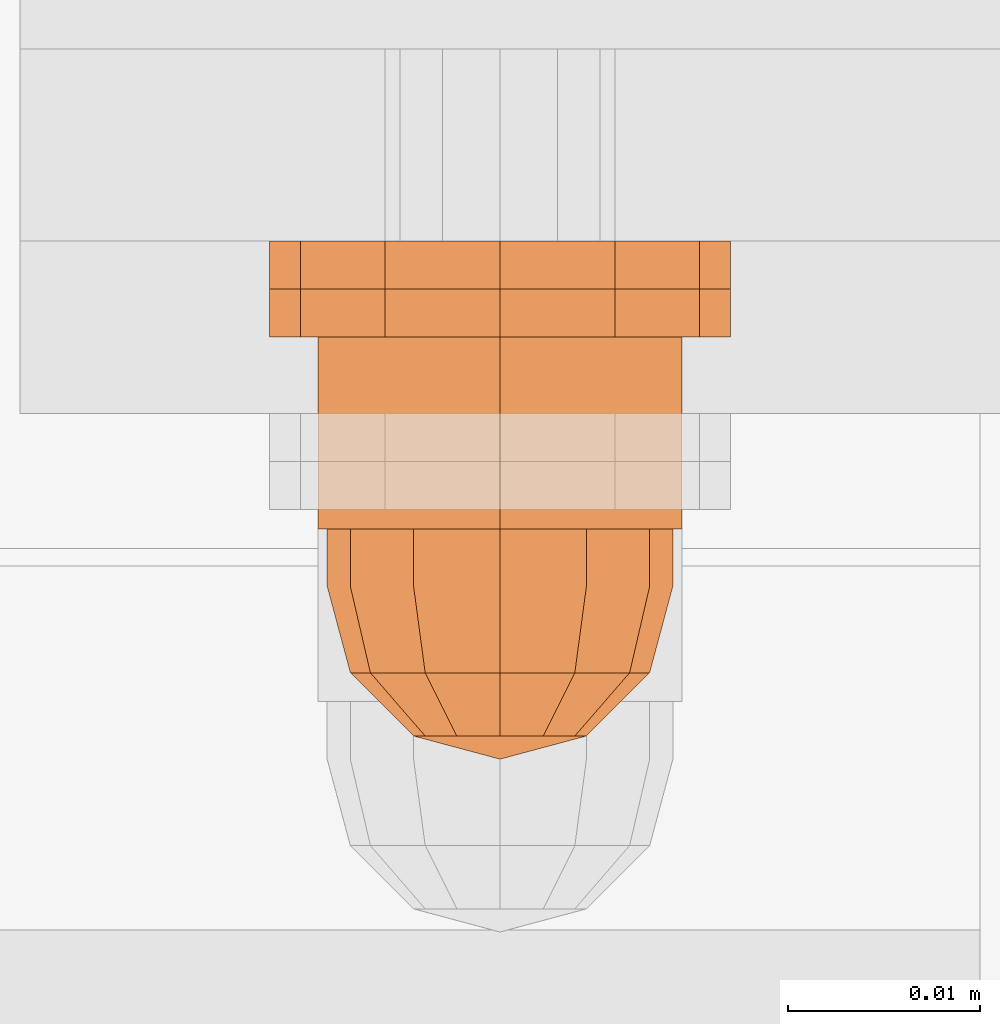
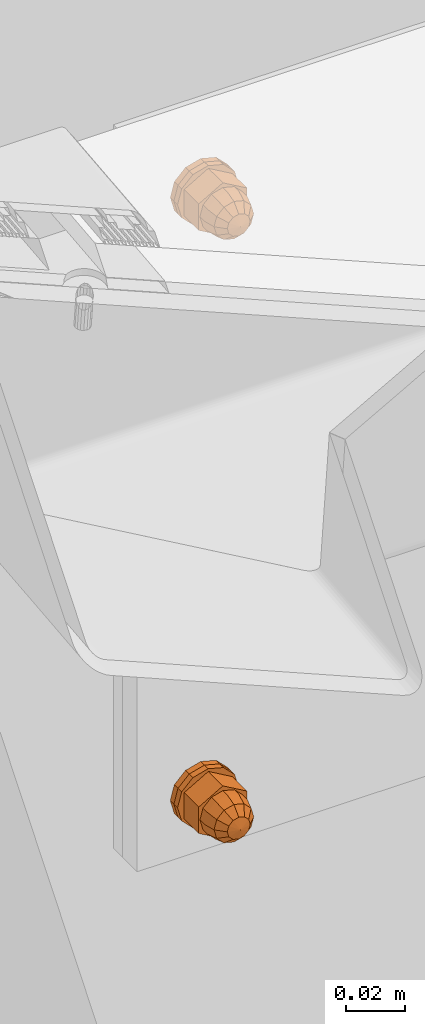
# One storey, part 133 of 162: 6 proxies.
"""IFC2X3 building model written with IfcOpenShell, lengths in millimetres."""

from ifc_helpers import new_model, entity, si_unit, converted_unit, origin_with_axes, place, context, project, spatial, faceted_brep, material, element, save


model = new_model("IFC2X3")

# Units and contexts
model_context = context("Model", 3, precision=1e-09, world=origin_with_axes())
ifc_project = project(units=[si_unit("LENGTHUNIT", "METRE", prefix="MILLI"), si_unit("AREAUNIT", "SQUARE_METRE"), si_unit("VOLUMEUNIT", "CUBIC_METRE"), converted_unit("PLANEANGLEUNIT", "DEGREE", entity("IfcPlaneAngleMeasure", 0.01745329), si_unit("PLANEANGLEUNIT", "RADIAN"), dimensions=[0, 0, 0, 0, 0, 0, 0])], contexts=[model_context])

# Site, building, storey
site_placement = place(None, origin_with_axes())
site = spatial("IfcSite", under=ifc_project, at=site_placement, Name="Hermannstra?e 1a, 60318 Frankfurt", CompositionType="ELEMENT")
building_placement = place(site_placement, origin_with_axes())
building = spatial("IfcBuilding", under=site, at=building_placement, Name="Struktur 1", CompositionType="ELEMENT")
storey_placement = place(building_placement, origin_with_axes())
storey = spatial("IfcBuildingStorey", under=building, at=storey_placement, Name="Default Storey", CompositionType="ELEMENT", Elevation=0.0)

# Proxies
ifc_material_1 = material(Name="Kunststoff")
proxy_1_placement = place(None, origin_with_axes())
element("IfcBuildingElementProxy", 1, at=proxy_1_placement, inside=storey, material=ifc_material_1, ObjectType="-", context=model_context, shape_type="Brep", body=[
    faceted_brep([(2688.701669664, 2717.109373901, 17460.999), (2688.701669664, 2719.609373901, 17460.999), (2690.309364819, 2719.609373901, 17466.999), (2690.309364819, 2717.109373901, 17466.999), (2684.309364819, 2719.609373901, 17456.606695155), (2678.309364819, 2719.609373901, 17454.999), (2672.309364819, 2719.609373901, 17456.606695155), (2667.917059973, 2719.609373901, 17460.999), (2666.309364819, 2719.609373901, 17466.999), (2667.917059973, 2719.609373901, 17472.999), (2672.309364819, 2719.609373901, 17477.391304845), (2678.309364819, 2719.609373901, 17478.999), (2684.309364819, 2719.609373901, 17477.391304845), (2688.701669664, 2719.609373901, 17472.999), (2681.559364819, 2719.609373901, 17461.369834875), (2683.938529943, 2719.609373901, 17463.749), (2684.809364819, 2719.609373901, 17466.999), (2683.938529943, 2719.609373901, 17470.249), (2681.559364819, 2719.609373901, 17472.628165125), (2678.309364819, 2719.609373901, 17473.499), (2675.059364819, 2719.609373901, 17472.628165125), (2672.680199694, 2719.609373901, 17470.249), (2671.809364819, 2719.609373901, 17466.999), (2672.680199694, 2719.609373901, 17463.749), (2675.059364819, 2719.609373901, 17461.369834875), (2678.309364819, 2719.609373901, 17460.499), (2684.809364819, 2717.109373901, 17466.999), (2683.938529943, 2717.109373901, 17463.749), (2684.309364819, 2717.109373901, 17456.606695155), (2688.701669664, 2717.109373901, 17472.999), (2684.309364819, 2717.109373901, 17477.391304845), (2678.309364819, 2717.109373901, 17478.999), (2672.309364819, 2717.109373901, 17477.391304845), (2667.917059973, 2717.109373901, 17472.999), (2666.309364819, 2717.109373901, 17466.999), (2667.917059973, 2717.109373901, 17460.999), (2672.309364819, 2717.109373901, 17456.606695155), (2678.309364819, 2717.109373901, 17454.999), (2681.559364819, 2717.109373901, 17461.369834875), (2678.309364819, 2717.109373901, 17460.499), (2675.059364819, 2717.109373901, 17461.369834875), (2672.680199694, 2717.109373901, 17463.749), (2671.809364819, 2717.109373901, 17466.999), (2672.680199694, 2717.109373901, 17470.249), (2675.059364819, 2717.109373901, 17472.628165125), (2678.309364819, 2717.109373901, 17473.499), (2681.559364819, 2717.109373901, 17472.628165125), (2683.938529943, 2717.109373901, 17470.249)], [[[0, 1, 2, 3]], [[1, 4, 5, 6, 7, 8, 9, 10, 11, 12, 13, 2], [14, 15, 16, 17, 18, 19, 20, 21, 22, 23, 24, 25]], [[26, 16, 15, 27]], [[28, 0, 3, 29, 30, 31, 32, 33, 34, 35, 36, 37], [26, 27, 38, 39, 40, 41, 42, 43, 44, 45, 46, 47]], [[1, 0, 28, 4]], [[16, 26, 47, 17]], [[3, 2, 13, 29]], [[27, 15, 14, 38]], [[4, 28, 37, 5]], [[17, 47, 46, 18]], [[29, 13, 12, 30]], [[38, 14, 25, 39]], [[18, 46, 45, 19]], [[5, 37, 36, 6]], [[39, 25, 24, 40]], [[30, 12, 11, 31]], [[19, 45, 44, 20]], [[6, 36, 35, 7]], [[40, 24, 23, 41]], [[31, 11, 10, 32]], [[20, 44, 43, 21]], [[7, 35, 34, 8]], [[41, 23, 22, 42]], [[32, 10, 9, 33]], [[21, 43, 42, 22]], [[8, 34, 33, 9]]]),
])
ifc_material_2 = material(Name="A4")
proxy_2_placement = place(None, origin_with_axes())
element("IfcBuildingElementProxy", 2, at=proxy_2_placement, inside=storey, material=ifc_material_2, ObjectType="-", context=model_context, shape_type="Brep", body=[
    faceted_brep([(2667.917059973, 2714.609373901, 17460.999), (2667.917059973, 2717.109373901, 17460.999), (2672.309364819, 2717.109373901, 17456.606695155), (2672.309364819, 2714.609373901, 17456.606695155), (2678.309364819, 2714.609373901, 17454.999), (2684.309364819, 2714.609373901, 17456.606695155), (2688.701669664, 2714.609373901, 17460.999), (2690.309364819, 2714.609373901, 17466.999), (2688.701669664, 2714.609373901, 17472.999), (2684.309364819, 2714.609373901, 17477.391304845), (2678.309364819, 2714.609373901, 17478.999), (2672.309364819, 2714.609373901, 17477.391304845), (2667.917059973, 2714.609373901, 17472.999), (2666.309364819, 2714.609373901, 17466.999), (2681.559364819, 2714.609373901, 17461.369834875), (2678.309364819, 2714.609373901, 17460.499), (2675.059364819, 2714.609373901, 17461.369834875), (2672.680199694, 2714.609373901, 17463.749), (2671.809364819, 2714.609373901, 17466.999), (2672.680199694, 2714.609373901, 17470.249), (2675.059364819, 2714.609373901, 17472.628165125), (2678.309364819, 2714.609373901, 17473.499), (2681.559364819, 2714.609373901, 17472.628165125), (2683.938529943, 2714.609373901, 17470.249), (2684.809364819, 2714.609373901, 17466.999), (2683.938529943, 2714.609373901, 17463.749), (2666.309364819, 2717.109373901, 17466.999), (2667.917059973, 2717.109373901, 17472.999), (2672.309364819, 2717.109373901, 17477.391304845), (2678.309364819, 2717.109373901, 17478.999), (2684.309364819, 2717.109373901, 17477.391304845), (2688.701669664, 2717.109373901, 17472.999), (2690.309364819, 2717.109373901, 17466.999), (2688.701669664, 2717.109373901, 17460.999), (2684.309364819, 2717.109373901, 17456.606695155), (2678.309364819, 2717.109373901, 17454.999), (2671.809364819, 2717.109373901, 17466.999), (2672.680199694, 2717.109373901, 17463.749), (2675.059364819, 2717.109373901, 17461.369834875), (2678.309364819, 2717.109373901, 17460.499), (2681.559364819, 2717.109373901, 17461.369834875), (2683.938529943, 2717.109373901, 17463.749), (2684.809364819, 2717.109373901, 17466.999), (2683.938529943, 2717.109373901, 17470.249), (2681.559364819, 2717.109373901, 17472.628165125), (2678.309364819, 2717.109373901, 17473.499), (2675.059364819, 2717.109373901, 17472.628165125), (2672.680199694, 2717.109373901, 17470.249)], [[[0, 1, 2, 3]], [[3, 4, 5, 6, 7, 8, 9, 10, 11, 12, 13, 0], [14, 15, 16, 17, 18, 19, 20, 21, 22, 23, 24, 25]], [[1, 26, 27, 28, 29, 30, 31, 32, 33, 34, 35, 2], [36, 37, 38, 39, 40, 41, 42, 43, 44, 45, 46, 47]], [[37, 17, 16, 38]], [[1, 0, 13, 26]], [[17, 37, 36, 18]], [[38, 16, 15, 39]], [[3, 2, 35, 4]], [[26, 13, 12, 27]], [[18, 36, 47, 19]], [[39, 15, 14, 40]], [[4, 35, 34, 5]], [[27, 12, 11, 28]], [[19, 47, 46, 20]], [[40, 14, 25, 41]], [[5, 34, 33, 6]], [[24, 42, 41, 25]], [[28, 11, 10, 29]], [[20, 46, 45, 21]], [[23, 43, 42, 24]], [[6, 33, 32, 7]], [[44, 22, 21, 45]], [[43, 23, 22, 44]], [[29, 10, 9, 30]], [[7, 32, 31, 8]], [[30, 9, 8, 31]]]),
])
proxy_3_placement = place(None, origin_with_axes())
element("IfcBuildingElementProxy", 3, at=proxy_3_placement, inside=storey, material=ifc_material_2, ObjectType="-", context=model_context, shape_type="Brep", body=[
    faceted_brep([(2684.309364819, 2714.609373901, 17466.999), (2684.309364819, 2704.609373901, 17466.999), (2683.505517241, 2704.609373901, 17469.999), (2683.505517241, 2714.609373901, 17469.999), (2681.309364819, 2704.609373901, 17472.195152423), (2681.309364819, 2714.609373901, 17472.195152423), (2683.505517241, 2714.609373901, 17463.999), (2683.505517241, 2704.609373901, 17463.999), (2687.789234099, 2714.609373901, 17461.525794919), (2678.309364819, 2714.609373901, 17456.052589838), (2668.829495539, 2714.609373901, 17461.525794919), (2668.829495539, 2714.609373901, 17472.472205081), (2678.309364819, 2714.609373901, 17477.945410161), (2687.789234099, 2714.609373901, 17472.472205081), (2681.309364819, 2714.609373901, 17461.802847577), (2678.309364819, 2714.609373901, 17472.999), (2675.309364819, 2714.609373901, 17472.195152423), (2673.113212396, 2714.609373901, 17469.999), (2672.309364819, 2714.609373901, 17466.999), (2673.113212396, 2714.609373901, 17463.999), (2675.309364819, 2714.609373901, 17461.802847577), (2678.309364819, 2714.609373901, 17460.999), (2678.309364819, 2704.609373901, 17456.052589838), (2687.789234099, 2704.609373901, 17461.525794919), (2687.789234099, 2704.609373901, 17472.472205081), (2678.309364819, 2704.609373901, 17477.945410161), (2668.829495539, 2704.609373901, 17472.472205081), (2668.829495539, 2704.609373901, 17461.525794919), (2681.309364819, 2704.609373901, 17461.802847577), (2678.309364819, 2704.609373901, 17460.999), (2675.309364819, 2704.609373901, 17461.802847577), (2673.113212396, 2704.609373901, 17463.999), (2672.309364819, 2704.609373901, 17466.999), (2673.113212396, 2704.609373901, 17469.999), (2675.309364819, 2704.609373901, 17472.195152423), (2678.309364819, 2704.609373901, 17472.999)], [[[0, 1, 2, 3]], [[3, 2, 4, 5]], [[1, 0, 6, 7]], [[8, 9, 10, 11, 12, 13], [14, 6, 0, 3, 5, 15, 16, 17, 18, 19, 20, 21]], [[22, 23, 24, 25, 26, 27], [1, 7, 28, 29, 30, 31, 32, 33, 34, 35, 4, 2]], [[7, 6, 14, 28]], [[24, 23, 8, 13]], [[5, 4, 35, 15]], [[13, 12, 25, 24]], [[28, 14, 21, 29]], [[23, 22, 9, 8]], [[15, 35, 34, 16]], [[12, 11, 26, 25]], [[29, 21, 20, 30]], [[22, 27, 10, 9]], [[16, 34, 33, 17]], [[27, 26, 11, 10]], [[30, 20, 19, 31]], [[17, 33, 32, 18]], [[31, 19, 18, 32]]]),
    faceted_brep([(2678.309364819, 2704.609373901, 17457.999), (2678.309364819, 2701.609373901, 17457.999), (2673.809364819, 2701.609373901, 17459.204771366), (2673.809364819, 2704.609373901, 17459.204771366), (2682.809364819, 2704.609373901, 17459.204771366), (2682.809364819, 2701.609373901, 17459.204771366), (2686.103593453, 2701.609373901, 17471.499), (2682.809364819, 2701.609373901, 17474.793228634), (2678.309364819, 2701.609373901, 17475.999), (2673.809364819, 2701.609373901, 17474.793228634), (2670.515136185, 2701.609373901, 17471.499), (2669.309364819, 2701.609373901, 17466.999), (2670.515136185, 2701.609373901, 17462.499), (2686.103593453, 2701.609373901, 17462.499), (2687.309364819, 2701.609373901, 17466.999), (2670.515136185, 2704.609373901, 17471.499), (2673.809364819, 2704.609373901, 17474.793228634), (2678.309364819, 2704.609373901, 17475.999), (2682.809364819, 2704.609373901, 17474.793228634), (2686.103593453, 2704.609373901, 17471.499), (2687.309364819, 2704.609373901, 17466.999), (2686.103593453, 2704.609373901, 17462.499), (2670.515136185, 2704.609373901, 17462.499), (2669.309364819, 2704.609373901, 17466.999)], [[[0, 1, 2, 3]], [[1, 0, 4, 5]], [[6, 7, 8, 9, 10, 11, 12, 2, 1, 5, 13, 14]], [[15, 16, 17, 18, 19, 20, 21, 4, 0, 3, 22, 23]], [[3, 2, 12, 22]], [[5, 4, 21, 13]], [[22, 12, 11, 23]], [[13, 21, 20, 14]], [[7, 18, 17, 8]], [[19, 6, 14, 20]], [[18, 7, 6, 19]], [[23, 11, 10, 15]], [[8, 17, 16, 9]], [[15, 10, 9, 16]]]),
    faceted_brep([(2686.103593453, 2701.609373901, 17462.499), (2685.059364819, 2697.109373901, 17463.101885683), (2682.206479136, 2697.109373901, 17460.249), (2682.809364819, 2701.609373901, 17459.204771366), (2670.515136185, 2701.609373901, 17471.499), (2673.809364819, 2701.609373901, 17474.793228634), (2678.309364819, 2701.609373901, 17475.999), (2682.809364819, 2701.609373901, 17474.793228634), (2686.103593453, 2701.609373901, 17471.499), (2687.309364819, 2701.609373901, 17466.999), (2678.309364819, 2701.609373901, 17457.999), (2673.809364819, 2701.609373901, 17459.204771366), (2670.515136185, 2701.609373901, 17462.499), (2669.309364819, 2701.609373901, 17466.999), (2678.309364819, 2697.109373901, 17459.204771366), (2686.103593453, 2697.109373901, 17466.999), (2682.809364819, 2693.815145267, 17466.999), (2682.206479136, 2693.815145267, 17464.749), (2674.412250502, 2697.109373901, 17460.249), (2680.559364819, 2693.815145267, 17463.101885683), (2685.059364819, 2697.109373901, 17470.896114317), (2682.206479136, 2693.815145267, 17469.249), (2678.309364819, 2693.815145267, 17462.499), (2678.309364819, 2692.609373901, 17466.999), (2682.206479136, 2697.109373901, 17473.749), (2680.559364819, 2693.815145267, 17470.896114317), (2678.309364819, 2697.109373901, 17474.793228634), (2671.559364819, 2697.109373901, 17463.101885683), (2676.059364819, 2693.815145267, 17463.101885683), (2678.309364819, 2693.815145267, 17471.499), (2674.412250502, 2697.109373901, 17473.749), (2676.059364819, 2693.815145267, 17470.896114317), (2670.515136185, 2697.109373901, 17466.999), (2674.412250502, 2693.815145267, 17464.749), (2671.559364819, 2697.109373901, 17470.896114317), (2674.412250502, 2693.815145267, 17469.249), (2673.809364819, 2693.815145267, 17466.999)], [[[0, 1, 2, 3]], [[4, 5, 6, 7, 8, 9, 0, 3, 10, 11, 12, 13]], [[3, 2, 14, 10]], [[15, 16, 17, 1]], [[1, 0, 9, 15]], [[10, 14, 18, 11]], [[1, 17, 19, 2]], [[16, 15, 20, 21]], [[2, 19, 22, 14]], [[23, 17, 16]], [[24, 25, 21, 20]], [[23, 16, 21]], [[24, 7, 6, 26]], [[20, 8, 7, 24]], [[15, 9, 8, 20]], [[11, 18, 27, 12]], [[14, 22, 28, 18]], [[23, 19, 17]], [[26, 29, 25, 24]], [[23, 21, 25]], [[23, 22, 19]], [[26, 6, 5, 30]], [[29, 26, 30, 31]], [[23, 25, 29]], [[12, 27, 32, 13]], [[18, 28, 33, 27]], [[23, 28, 22]], [[23, 29, 31]], [[23, 33, 28]], [[30, 5, 4, 34]], [[31, 30, 34, 35]], [[23, 31, 35]], [[13, 32, 34, 4]], [[27, 33, 36, 32]], [[23, 36, 33]], [[23, 35, 36]], [[35, 34, 32, 36]]]),
])
proxy_4_placement = place(None, origin_with_axes())
element("IfcBuildingElementProxy", 4, at=proxy_4_placement, inside=storey, material=ifc_material_2, ObjectType="-", context=model_context, shape_type="Brep", body=[
    faceted_brep([(2684.309364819, 2704.609373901, 17216.999), (2684.309364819, 2714.609373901, 17216.999), (2683.505517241, 2714.609373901, 17213.999), (2683.505517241, 2704.609373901, 17213.999), (2681.309364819, 2714.609373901, 17211.802847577), (2681.309364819, 2704.609373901, 17211.802847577), (2683.505517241, 2704.609373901, 17219.999), (2683.505517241, 2714.609373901, 17219.999), (2687.789234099, 2714.609373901, 17222.472205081), (2687.789234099, 2714.609373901, 17211.525794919), (2678.309364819, 2714.609373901, 17206.052589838), (2668.829495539, 2714.609373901, 17211.525794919), (2668.829495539, 2714.609373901, 17222.472205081), (2678.309364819, 2714.609373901, 17227.945410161), (2681.309364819, 2714.609373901, 17222.195152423), (2678.309364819, 2714.609373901, 17222.999), (2675.309364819, 2714.609373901, 17222.195152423), (2673.113212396, 2714.609373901, 17219.999), (2672.309364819, 2714.609373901, 17216.999), (2673.113212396, 2714.609373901, 17213.999), (2675.309364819, 2714.609373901, 17211.802847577), (2678.309364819, 2714.609373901, 17210.999), (2687.789234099, 2704.609373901, 17222.472205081), (2678.309364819, 2704.609373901, 17227.945410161), (2668.829495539, 2704.609373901, 17222.472205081), (2668.829495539, 2704.609373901, 17211.525794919), (2678.309364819, 2704.609373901, 17206.052589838), (2687.789234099, 2704.609373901, 17211.525794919), (2681.309364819, 2704.609373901, 17222.195152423), (2678.309364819, 2704.609373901, 17210.999), (2678.309364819, 2704.609373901, 17222.999), (2675.309364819, 2704.609373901, 17211.802847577), (2675.309364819, 2704.609373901, 17222.195152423), (2673.113212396, 2704.609373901, 17213.999), (2673.113212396, 2704.609373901, 17219.999), (2672.309364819, 2704.609373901, 17216.999)], [[[0, 1, 2, 3]], [[3, 2, 4, 5]], [[1, 0, 6, 7]], [[8, 9, 10, 11, 12, 13], [7, 14, 15, 16, 17, 18, 19, 20, 21, 4, 2, 1]], [[22, 23, 24, 25, 26, 27]], [[7, 6, 28, 14]], [[22, 27, 9, 8]], [[5, 4, 21, 29]], [[10, 9, 27, 26]], [[14, 28, 30, 15]], [[23, 22, 8, 13]], [[29, 21, 20, 31]], [[11, 10, 26, 25]], [[15, 30, 32, 16]], [[24, 23, 13, 12]], [[31, 20, 19, 33]], [[25, 24, 12, 11]], [[16, 32, 34, 17]], [[33, 19, 18, 35]], [[17, 34, 35, 18]]]),
    faceted_brep([(2678.309364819, 2701.609373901, 17225.999), (2678.309364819, 2704.609373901, 17225.999), (2673.809364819, 2704.609373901, 17224.793228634), (2673.809364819, 2701.609373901, 17224.793228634), (2682.809364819, 2701.609373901, 17224.793228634), (2682.809364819, 2704.609373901, 17224.793228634), (2682.809364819, 2701.609373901, 17209.204771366), (2686.103593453, 2701.609373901, 17212.499), (2687.309364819, 2701.609373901, 17216.999), (2686.103593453, 2701.609373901, 17221.499), (2670.515136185, 2701.609373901, 17221.499), (2669.309364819, 2701.609373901, 17216.999), (2670.515136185, 2701.609373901, 17212.499), (2673.809364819, 2701.609373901, 17209.204771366), (2678.309364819, 2701.609373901, 17207.999), (2673.809364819, 2704.609373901, 17209.204771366), (2670.515136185, 2704.609373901, 17212.499), (2669.309364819, 2704.609373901, 17216.999), (2670.515136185, 2704.609373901, 17221.499), (2686.103593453, 2704.609373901, 17221.499), (2687.309364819, 2704.609373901, 17216.999), (2686.103593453, 2704.609373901, 17212.499), (2682.809364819, 2704.609373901, 17209.204771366), (2678.309364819, 2704.609373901, 17207.999)], [[[0, 1, 2, 3]], [[1, 0, 4, 5]], [[6, 7, 8, 9, 4, 0, 3, 10, 11, 12, 13, 14]], [[15, 16, 17, 18, 2, 1, 5, 19, 20, 21, 22, 23]], [[3, 2, 18, 10]], [[5, 4, 9, 19]], [[10, 18, 17, 11]], [[19, 9, 8, 20]], [[22, 6, 14, 23]], [[7, 21, 20, 8]], [[6, 22, 21, 7]], [[11, 17, 16, 12]], [[23, 14, 13, 15]], [[12, 16, 15, 13]]]),
    faceted_brep([(2685.059364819, 2697.109373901, 17220.896114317), (2686.103593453, 2701.609373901, 17221.499), (2682.809364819, 2701.609373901, 17224.793228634), (2682.206479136, 2697.109373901, 17223.749), (2673.809364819, 2701.609373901, 17209.204771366), (2670.515136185, 2701.609373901, 17212.499), (2669.309364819, 2701.609373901, 17216.999), (2670.515136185, 2701.609373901, 17221.499), (2673.809364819, 2701.609373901, 17224.793228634), (2678.309364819, 2701.609373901, 17225.999), (2687.309364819, 2701.609373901, 17216.999), (2686.103593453, 2701.609373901, 17212.499), (2682.809364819, 2701.609373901, 17209.204771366), (2678.309364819, 2701.609373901, 17207.999), (2678.309364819, 2697.109373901, 17224.793228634), (2682.809364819, 2693.815145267, 17216.999), (2686.103593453, 2697.109373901, 17216.999), (2682.206479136, 2693.815145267, 17219.249), (2674.412250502, 2697.109373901, 17223.749), (2680.559364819, 2693.815145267, 17220.896114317), (2682.206479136, 2693.815145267, 17214.749), (2685.059364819, 2697.109373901, 17213.101885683), (2678.309364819, 2693.815145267, 17221.499), (2678.309364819, 2692.609373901, 17216.999), (2680.559364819, 2693.815145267, 17213.101885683), (2682.206479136, 2697.109373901, 17210.249), (2678.309364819, 2697.109373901, 17209.204771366), (2671.559364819, 2697.109373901, 17220.896114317), (2676.059364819, 2693.815145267, 17220.896114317), (2678.309364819, 2693.815145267, 17212.499), (2674.412250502, 2697.109373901, 17210.249), (2676.059364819, 2693.815145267, 17213.101885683), (2670.515136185, 2697.109373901, 17216.999), (2674.412250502, 2693.815145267, 17219.249), (2671.559364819, 2697.109373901, 17213.101885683), (2674.412250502, 2693.815145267, 17214.749), (2673.809364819, 2693.815145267, 17216.999)], [[[0, 1, 2, 3]], [[4, 5, 6, 7, 8, 9, 2, 1, 10, 11, 12, 13]], [[3, 2, 9, 14]], [[15, 16, 0, 17]], [[1, 0, 16, 10]], [[14, 9, 8, 18]], [[17, 0, 3, 19]], [[16, 15, 20, 21]], [[19, 3, 14, 22]], [[17, 23, 15]], [[24, 25, 21, 20]], [[15, 23, 20]], [[12, 25, 26, 13]], [[11, 21, 25, 12]], [[10, 16, 21, 11]], [[18, 8, 7, 27]], [[22, 14, 18, 28]], [[19, 23, 17]], [[29, 26, 25, 24]], [[20, 23, 24]], [[22, 23, 19]], [[13, 26, 30, 4]], [[26, 29, 31, 30]], [[24, 23, 29]], [[27, 7, 6, 32]], [[28, 18, 27, 33]], [[28, 23, 22]], [[29, 23, 31]], [[33, 23, 28]], [[4, 30, 34, 5]], [[30, 31, 35, 34]], [[31, 23, 35]], [[32, 6, 5, 34]], [[33, 27, 32, 36]], [[36, 23, 33]], [[35, 23, 36]], [[34, 35, 36, 32]]]),
])
proxy_5_placement = place(None, origin_with_axes())
element("IfcBuildingElementProxy", 5, at=proxy_5_placement, inside=storey, material=ifc_material_1, ObjectType="-", context=model_context, shape_type="Brep", body=[
    faceted_brep([(2688.701669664, 2719.609373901, 17222.999), (2688.701669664, 2717.109373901, 17222.999), (2690.309364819, 2717.109373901, 17216.999), (2690.309364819, 2719.609373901, 17216.999), (2683.938529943, 2719.609373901, 17220.249), (2681.559364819, 2719.609373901, 17222.628165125), (2678.309364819, 2719.609373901, 17223.499), (2675.059364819, 2719.609373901, 17222.628165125), (2672.680199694, 2719.609373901, 17220.249), (2671.809364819, 2719.609373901, 17216.999), (2672.680199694, 2719.609373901, 17213.749), (2675.059364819, 2719.609373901, 17211.369834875), (2678.309364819, 2719.609373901, 17210.499), (2681.559364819, 2719.609373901, 17211.369834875), (2683.938529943, 2719.609373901, 17213.749), (2684.809364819, 2719.609373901, 17216.999), (2684.809364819, 2717.109373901, 17216.999), (2683.938529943, 2717.109373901, 17220.249), (2684.309364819, 2717.109373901, 17227.391304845), (2678.309364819, 2717.109373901, 17228.999), (2672.309364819, 2717.109373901, 17227.391304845), (2667.917059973, 2717.109373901, 17222.999), (2666.309364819, 2717.109373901, 17216.999), (2667.917059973, 2717.109373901, 17210.999), (2672.309364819, 2717.109373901, 17206.606695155), (2678.309364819, 2717.109373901, 17204.999), (2684.309364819, 2717.109373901, 17206.606695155), (2688.701669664, 2717.109373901, 17210.999), (2684.309364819, 2719.609373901, 17227.391304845), (2683.938529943, 2717.109373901, 17213.749), (2688.701669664, 2719.609373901, 17210.999), (2681.559364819, 2717.109373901, 17222.628165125), (2678.309364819, 2719.609373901, 17228.999), (2681.559364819, 2717.109373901, 17211.369834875), (2684.309364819, 2719.609373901, 17206.606695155), (2678.309364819, 2717.109373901, 17223.499), (2678.309364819, 2717.109373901, 17210.499), (2672.309364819, 2719.609373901, 17227.391304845), (2675.059364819, 2717.109373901, 17222.628165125), (2678.309364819, 2719.609373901, 17204.999), (2675.059364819, 2717.109373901, 17211.369834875), (2667.917059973, 2719.609373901, 17222.999), (2672.680199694, 2717.109373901, 17220.249), (2672.309364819, 2719.609373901, 17206.606695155), (2672.680199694, 2717.109373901, 17213.749), (2666.309364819, 2719.609373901, 17216.999), (2671.809364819, 2717.109373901, 17216.999), (2667.917059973, 2719.609373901, 17210.999)], [[[0, 1, 2, 3]], [[4, 5, 6, 7, 8, 9, 10, 11, 12, 13, 14, 15]], [[15, 16, 17, 4]], [[1, 18, 19, 20, 21, 22, 23, 24, 25, 26, 27, 2]], [[1, 0, 28, 18]], [[16, 15, 14, 29]], [[3, 2, 27, 30]], [[4, 17, 31, 5]], [[18, 28, 32, 19]], [[29, 14, 13, 33]], [[30, 27, 26, 34]], [[5, 31, 35, 6]], [[33, 13, 12, 36]], [[19, 32, 37, 20]], [[6, 35, 38, 7]], [[34, 26, 25, 39]], [[36, 12, 11, 40]], [[20, 37, 41, 21]], [[7, 38, 42, 8]], [[39, 25, 24, 43]], [[40, 11, 10, 44]], [[21, 41, 45, 22]], [[8, 42, 46, 9]], [[43, 24, 23, 47]], [[44, 10, 9, 46]], [[22, 45, 47, 23]]]),
])
proxy_6_placement = place(None, origin_with_axes())
element("IfcBuildingElementProxy", 6, at=proxy_6_placement, inside=storey, material=ifc_material_2, ObjectType="-", context=model_context, shape_type="Brep", body=[
    faceted_brep([(2667.917059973, 2717.109373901, 17222.999), (2667.917059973, 2714.609373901, 17222.999), (2672.309364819, 2714.609373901, 17227.391304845), (2672.309364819, 2717.109373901, 17227.391304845), (2666.309364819, 2714.609373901, 17216.999), (2667.917059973, 2714.609373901, 17210.999), (2672.309364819, 2714.609373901, 17206.606695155), (2678.309364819, 2714.609373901, 17204.999), (2684.309364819, 2714.609373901, 17206.606695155), (2688.701669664, 2714.609373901, 17210.999), (2690.309364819, 2714.609373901, 17216.999), (2688.701669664, 2714.609373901, 17222.999), (2684.309364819, 2714.609373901, 17227.391304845), (2678.309364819, 2714.609373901, 17228.999), (2678.309364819, 2714.609373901, 17223.499), (2681.559364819, 2714.609373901, 17222.628165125), (2683.938529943, 2714.609373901, 17220.249), (2684.809364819, 2714.609373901, 17216.999), (2683.938529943, 2714.609373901, 17213.749), (2681.559364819, 2714.609373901, 17211.369834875), (2678.309364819, 2714.609373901, 17210.499), (2675.059364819, 2714.609373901, 17211.369834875), (2672.680199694, 2714.609373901, 17213.749), (2671.809364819, 2714.609373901, 17216.999), (2672.680199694, 2714.609373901, 17220.249), (2675.059364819, 2714.609373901, 17222.628165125), (2672.680199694, 2717.109373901, 17220.249), (2671.809364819, 2717.109373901, 17216.999), (2672.680199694, 2717.109373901, 17213.749), (2675.059364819, 2717.109373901, 17211.369834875), (2678.309364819, 2717.109373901, 17210.499), (2681.559364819, 2717.109373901, 17211.369834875), (2683.938529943, 2717.109373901, 17213.749), (2684.809364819, 2717.109373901, 17216.999), (2683.938529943, 2717.109373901, 17220.249), (2681.559364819, 2717.109373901, 17222.628165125), (2678.309364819, 2717.109373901, 17223.499), (2675.059364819, 2717.109373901, 17222.628165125), (2666.309364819, 2717.109373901, 17216.999), (2678.309364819, 2717.109373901, 17228.999), (2667.917059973, 2717.109373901, 17210.999), (2684.309364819, 2717.109373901, 17227.391304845), (2672.309364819, 2717.109373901, 17206.606695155), (2688.701669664, 2717.109373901, 17222.999), (2678.309364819, 2717.109373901, 17204.999), (2690.309364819, 2717.109373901, 17216.999), (2684.309364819, 2717.109373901, 17206.606695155), (2688.701669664, 2717.109373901, 17210.999)], [[[0, 1, 2, 3]], [[2, 1, 4, 5, 6, 7, 8, 9, 10, 11, 12, 13], [14, 15, 16, 17, 18, 19, 20, 21, 22, 23, 24, 25]], [[26, 27, 28, 29, 30, 31, 32, 33, 34, 35, 36, 37]], [[24, 26, 37, 25]], [[1, 0, 38, 4]], [[26, 24, 23, 27]], [[25, 37, 36, 14]], [[3, 2, 13, 39]], [[4, 38, 40, 5]], [[27, 23, 22, 28]], [[14, 36, 35, 15]], [[39, 13, 12, 41]], [[5, 40, 42, 6]], [[28, 22, 21, 29]], [[15, 35, 34, 16]], [[41, 12, 11, 43]], [[33, 17, 16, 34]], [[6, 42, 44, 7]], [[29, 21, 20, 30]], [[32, 18, 17, 33]], [[43, 11, 10, 45]], [[19, 31, 30, 20]], [[18, 32, 31, 19]], [[7, 44, 46, 8]], [[45, 10, 9, 47]], [[8, 46, 47, 9]]]),
])

save(model, "model.ifc")
